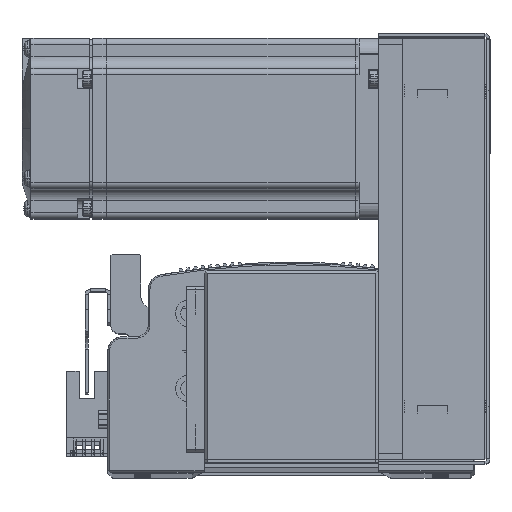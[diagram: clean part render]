
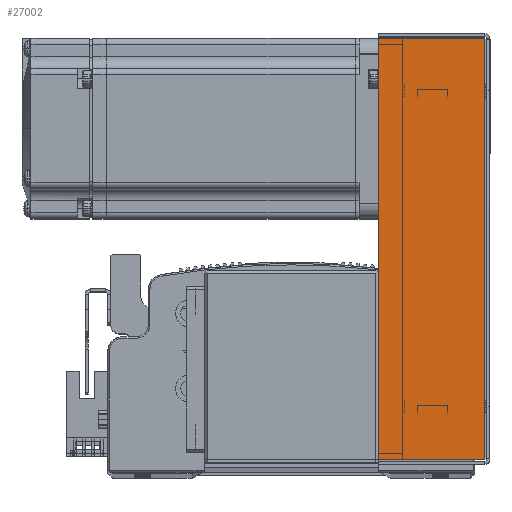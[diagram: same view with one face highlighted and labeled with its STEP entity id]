
A CAD part, top view. The second image highlights one B-rep face of the part: STEP entity #27002.
In plain terms, the highlighted planar face has unit normal (0, 0, 1) as drawn and (0, 0, -1) by its records, which use the part's own axes.
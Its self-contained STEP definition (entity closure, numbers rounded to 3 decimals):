
#427 = VERTEX_POINT ( 'NONE', #66708 ) ;
#429 = VERTEX_POINT ( 'NONE', #66749 ) ;
#430 = VERTEX_POINT ( 'NONE', #66808 ) ;
#496 = VERTEX_POINT ( 'NONE', #66794 ) ;
#7177 = AXIS2_PLACEMENT_3D ( 'NONE', #59210, #59198, #59214 ) ;
#9612 = EDGE_LOOP ( 'NONE', ( #64867, #64863, #64818, #64594 ) ) ;
#26422 = CARTESIAN_POINT ( 'NONE',  ( 71.5, 0.737, -33.5 ) ) ;
#26447 = DIRECTION ( 'NONE',  ( 1., 0., 0. ) ) ;
#26482 = CARTESIAN_POINT ( 'NONE',  ( 0., 36., -33.5 ) ) ;
#26484 = DIRECTION ( 'NONE',  ( 1., 0., 0. ) ) ;
#26521 = DIRECTION ( 'NONE',  ( 0., 1., 0. ) ) ;
#26584 = CARTESIAN_POINT ( 'NONE',  ( 69.793, 0., -33.5 ) ) ;
#26642 = CARTESIAN_POINT ( 'NONE',  ( -69.793, 0., -33.5 ) ) ;
#27002 = ADVANCED_FACE ( 'NONE', ( #37655 ), #59202, .F. ) ;
#27265 = DIRECTION ( 'NONE',  ( 0., 1., 0. ) ) ;
#28849 = VECTOR ( 'NONE', #26484, 1000. ) ;
#28858 = LINE ( 'NONE', #26482, #28849 ) ;
#28882 = LINE ( 'NONE', #26422, #28884 ) ;
#28884 = VECTOR ( 'NONE', #26447, 1000. ) ;
#29028 = VECTOR ( 'NONE', #26521, 1000. ) ;
#29040 = LINE ( 'NONE', #26642, #29047 ) ;
#29045 = LINE ( 'NONE', #26584, #29028 ) ;
#29047 = VECTOR ( 'NONE', #27265, 1000. ) ;
#37655 = FACE_OUTER_BOUND ( 'NONE', #9612, .T. ) ;
#59198 = DIRECTION ( 'NONE',  ( 0., 0., 1. ) ) ;
#59202 = PLANE ( 'NONE',  #7177 ) ;
#59210 = CARTESIAN_POINT ( 'NONE',  ( 0., 0., -33.5 ) ) ;
#59214 = DIRECTION ( 'NONE',  ( 0., -1., 0. ) ) ;
#64594 = ORIENTED_EDGE ( 'NONE', *, *, #69565, .F. ) ;
#64818 = ORIENTED_EDGE ( 'NONE', *, *, #69556, .T. ) ;
#64863 = ORIENTED_EDGE ( 'NONE', *, *, #69578, .T. ) ;
#64867 = ORIENTED_EDGE ( 'NONE', *, *, #69555, .F. ) ;
#66708 = CARTESIAN_POINT ( 'NONE',  ( -69.793, 36., -33.5 ) ) ;
#66749 = CARTESIAN_POINT ( 'NONE',  ( 69.793, 0.737, -33.5 ) ) ;
#66794 = CARTESIAN_POINT ( 'NONE',  ( 69.793, 36., -33.5 ) ) ;
#66808 = CARTESIAN_POINT ( 'NONE',  ( -69.793, 0.737, -33.5 ) ) ;
#69555 = EDGE_CURVE ( 'NONE', #430, #429, #28882, .T. ) ;
#69556 = EDGE_CURVE ( 'NONE', #427, #496, #28858, .T. ) ;
#69565 = EDGE_CURVE ( 'NONE', #429, #496, #29045, .T. ) ;
#69578 = EDGE_CURVE ( 'NONE', #430, #427, #29040, .T. ) ;
